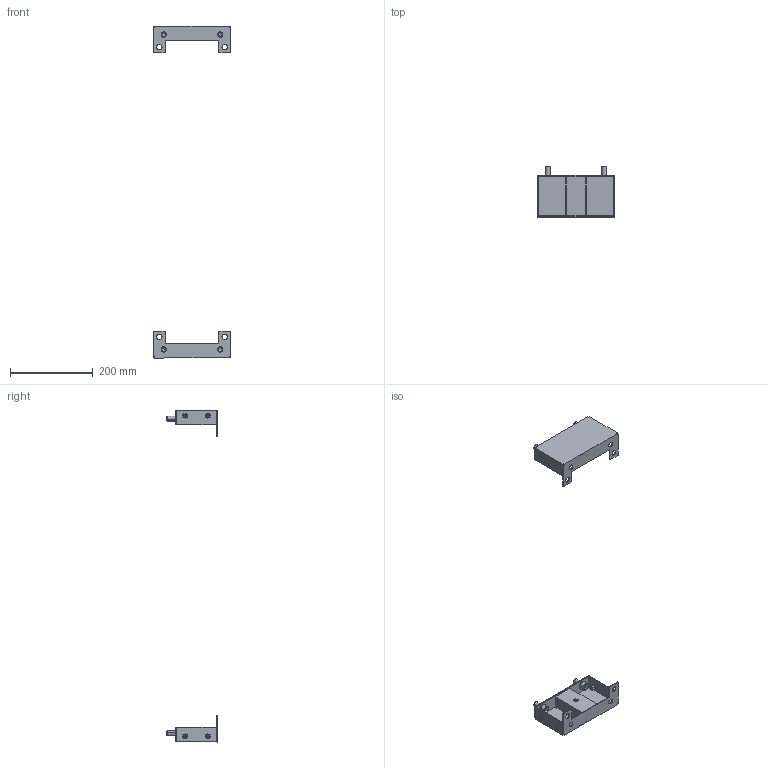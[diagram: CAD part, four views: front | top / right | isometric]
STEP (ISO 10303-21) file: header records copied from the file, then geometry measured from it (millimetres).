
FILE_DESCRIPTION (( 'STEP AP203' ), '1' );
FILE_NAME ('R6PLB25 H=800.STEP', '2025-05-16T11:40:15', ( '' ), ( '' ), 'SwSTEP 2.0', 'SolidWorks 2022', '' );
FILE_SCHEMA (( 'CONFIG_CONTROL_DESIGN' ));
Length unit declared in the file: millimetre
Products named in the file (7): RB.3309.00.01.0 simple; M6 MGS-MPO-0635_straight; RB.3309.00.00.0 СБ simple; 12 DIN 6798 A Zinc; RB.3309.00.02.0 simple; M12x25 DIN 912 HX cl.8,8 Zinc_stright; R6PLB25 H=800
Assembly tree (17 placements, depth 3):
  R6PLB25 H=800
    RB.3309.00.00.0 СБ simple  x2
      RB.3309.00.01.0 simple
      M6 MGS-MPO-0635_straight
      RB.3309.00.02.0 simple
    12 DIN 6798 A Zinc  x4
    M12x25 DIN 912 HX cl.8,8 Zinc_stright  x4
Bounding box: 186.7 x 121.5 x 800 mm (x, y, z)
Volume: 261997.6 mm3; surface area: 216610.9 mm2
Topology: 22 solids, 22 shells, 1220 faces, 3192 edges, 1808 vertices
Faces by surface type: plane 548, cylinder 356, bspline 144, sphere 120, cone 36, torus 16
Entity records: 10115 total; most frequent: CARTESIAN_POINT 2745, ORIENTED_EDGE 1384, DIRECTION 1192, EDGE_CURVE 692, VECTOR 444, LINE 444, VERTEX_POINT 443, AXIS2_PLACEMENT_3D 374
